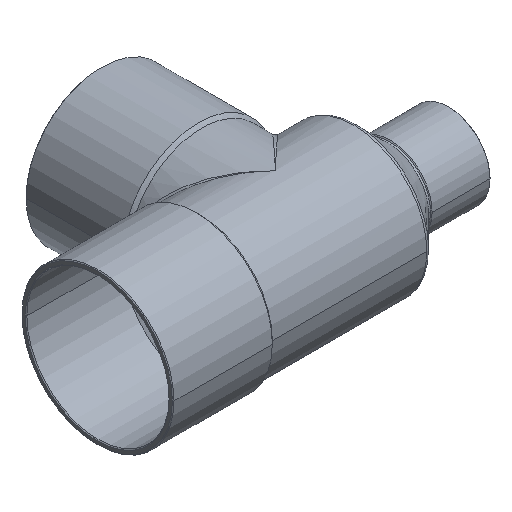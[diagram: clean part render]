
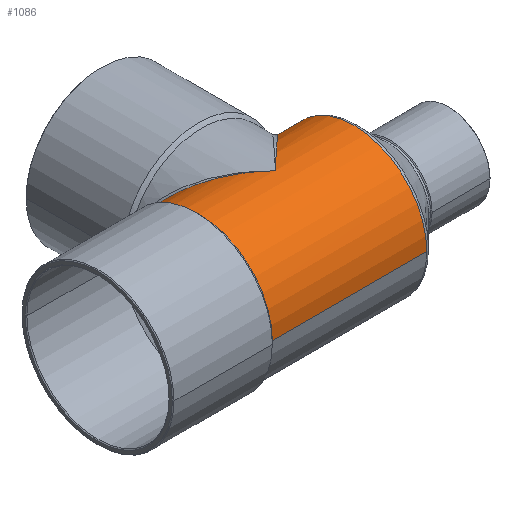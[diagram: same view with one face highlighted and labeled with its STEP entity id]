
A CAD part, isometric view. The second image highlights one B-rep face of the part: STEP entity #1086.
In plain terms, the highlighted cylindrical face has radius 18 mm (diameter 36 mm), a partial arc.
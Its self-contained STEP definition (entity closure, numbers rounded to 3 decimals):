
#354=CARTESIAN_POINT('',(-18.728,-18.,0.));
#355=VERTEX_POINT('',#354);
#362=CARTESIAN_POINT('',(-18.728,17.742,3.035));
#363=VERTEX_POINT('',#362);
#364=CARTESIAN_POINT('',(-18.728,0.0,0.0));
#365=DIRECTION('',(1.0,0.0,0.0));
#366=DIRECTION('',(0.0,1.0,0.0));
#367=AXIS2_PLACEMENT_3D('',#364,#365,#366);
#368=CIRCLE('',#367,18.);
#369=EDGE_CURVE('',#363,#355,#368,.T.);
#524=CARTESIAN_POINT('',(19.444,18.0,0.0));
#525=VERTEX_POINT('',#524);
#533=CARTESIAN_POINT('',(19.444,0.,18.0));
#534=VERTEX_POINT('',#533);
#535=CARTESIAN_POINT('',(19.444,0.0,0.0));
#536=DIRECTION('',(1.0,0.0,0.0));
#537=DIRECTION('',(0.0,-1.0,0.0));
#538=AXIS2_PLACEMENT_3D('',#535,#536,#537);
#539=CIRCLE('',#538,18.0);
#540=EDGE_CURVE('',#525,#534,#539,.T.);
#1038=CARTESIAN_POINT('',(0.565,0.0,0.0));
#1039=DIRECTION('',(1.0,0.0,0.0));
#1040=DIRECTION('',(0.0,1.0,0.0));
#1041=AXIS2_PLACEMENT_3D('',#1038,#1039,#1040);
#1042=CYLINDRICAL_SURFACE('',#1041,18.0);
#1043=CARTESIAN_POINT('',(19.0,18.0,0.));
#1044=VERTEX_POINT('',#1043);
#1045=CARTESIAN_POINT('',(19.0,18.0,0.));
#1046=DIRECTION('',(1.0,0.0,0.0));
#1047=VECTOR('',#1046,0.444);
#1048=LINE('',#1045,#1047);
#1049=EDGE_CURVE('',#1044,#525,#1048,.T.);
#1050=ORIENTED_EDGE('',*,*,#1049,.F.);
#1051=CARTESIAN_POINT('',(0.0,0.0,18.0));
#1052=VERTEX_POINT('',#1051);
#1053=CARTESIAN_POINT('',(0.0,0.0,0.0));
#1054=DIRECTION('',(-0.688,0.726,0.));
#1055=DIRECTION('',(0.726,0.688,0.0));
#1056=AXIS2_PLACEMENT_3D('',#1053,#1054,#1055);
#1057=ELLIPSE('',#1056,26.173,18.);
#1058=EDGE_CURVE('',#1052,#1044,#1057,.T.);
#1059=ORIENTED_EDGE('',*,*,#1058,.F.);
#1060=CARTESIAN_POINT('',(0.0,0.0,0.0));
#1061=DIRECTION('',(0.688,0.726,0.));
#1062=DIRECTION('',(-0.726,0.688,0.0));
#1063=AXIS2_PLACEMENT_3D('',#1060,#1061,#1062);
#1064=ELLIPSE('',#1063,26.173,18.);
#1065=EDGE_CURVE('',#363,#1052,#1064,.T.);
#1066=ORIENTED_EDGE('',*,*,#1065,.F.);
#1067=ORIENTED_EDGE('',*,*,#369,.T.);
#1068=CARTESIAN_POINT('',(19.444,-18.0,0.));
#1069=VERTEX_POINT('',#1068);
#1070=CARTESIAN_POINT('',(19.444,-18.0,0.));
#1071=DIRECTION('',(-1.0,0.0,0.0));
#1072=VECTOR('',#1071,38.172);
#1073=LINE('',#1070,#1072);
#1074=EDGE_CURVE('',#1069,#355,#1073,.T.);
#1075=ORIENTED_EDGE('',*,*,#1074,.F.);
#1076=CARTESIAN_POINT('',(19.444,0.0,0.0));
#1077=DIRECTION('',(1.0,0.0,0.0));
#1078=DIRECTION('',(0.0,-1.0,0.0));
#1079=AXIS2_PLACEMENT_3D('',#1076,#1077,#1078);
#1080=CIRCLE('',#1079,18.0);
#1081=EDGE_CURVE('',#534,#1069,#1080,.T.);
#1082=ORIENTED_EDGE('',*,*,#1081,.F.);
#1083=ORIENTED_EDGE('',*,*,#540,.F.);
#1084=EDGE_LOOP('',(#1050,#1059,#1066,#1067,#1075,#1082,#1083));
#1085=FACE_OUTER_BOUND('',#1084,.T.);
#1086=ADVANCED_FACE('',(#1085),#1042,.T.);
